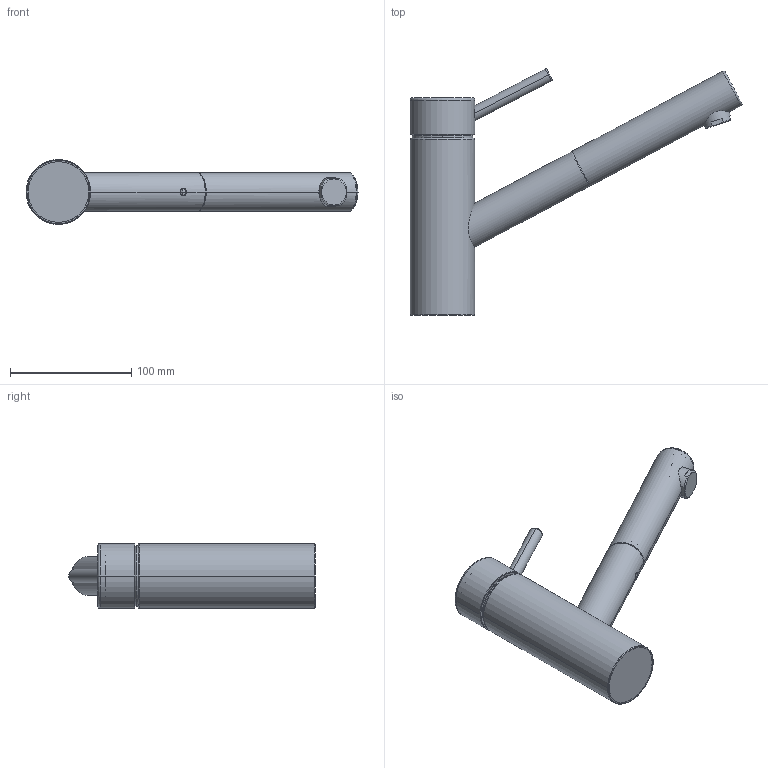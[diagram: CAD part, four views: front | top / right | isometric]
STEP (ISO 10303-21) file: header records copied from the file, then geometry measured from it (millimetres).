
FILE_DESCRIPTION((''),'2;1');
FILE_NAME('10_271_103_XXX','2012-01-04T',('laf'),(''),'PRO/ENGINEER BY PARAMETRIC TECHNOLOGY CORPORATION, 2011080','PRO/ENGINEER BY PARAMETRIC TECHNOLOGY CORPORATION, 2011080','');
FILE_SCHEMA(('AUTOMOTIVE_DESIGN_CC2 { 1 2 10303 214 -1 1 5 2 }'));
Length unit declared in the file: millimetre
Products named in the file (1): 10_271_103_XXX
Bounding box: 273.99 x 203.17 x 53.6 mm (x, y, z)
Volume: 146246.5 mm3; surface area: 149479.8 mm2
Topology: 2 solids, 3 shells, 354 faces, 830 edges, 502 vertices
Faces by surface type: cylinder 117, plane 109, torus 70, cone 34, sphere 14, bspline 10
Entity records: 12219 total; most frequent: CARTESIAN_POINT 3953, DIRECTION 1843, ORIENTED_EDGE 1656, EDGE_CURVE 828, AXIS2_PLACEMENT_3D 775, VERTEX_POINT 502, CIRCLE 431, EDGE_LOOP 388
